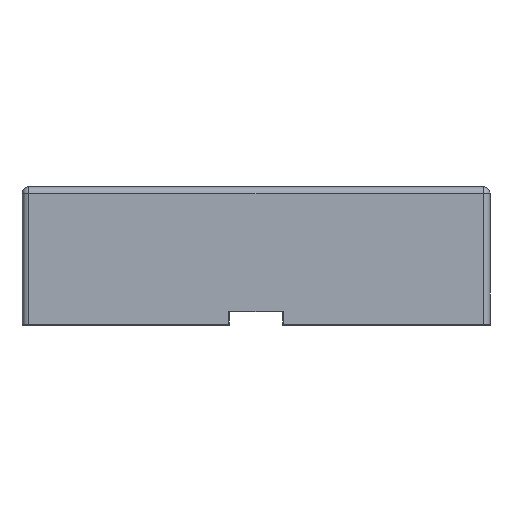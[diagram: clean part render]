
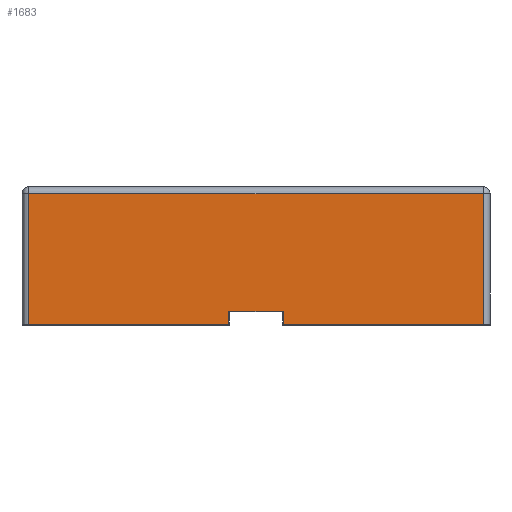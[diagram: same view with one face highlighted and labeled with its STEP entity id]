
A CAD part, front view. The second image highlights one B-rep face of the part: STEP entity #1683.
In plain terms, the highlighted planar face has unit normal (0, -1, 0).
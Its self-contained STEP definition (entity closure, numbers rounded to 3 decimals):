
#176=FACE_OUTER_BOUND('',#276,.T.);
#276=EDGE_LOOP('',(#1130,#1131,#1132,#1133,#1134,#1135,#1136,#1137));
#392=LINE('',#2543,#556);
#393=LINE('',#2545,#557);
#394=LINE('',#2547,#558);
#395=LINE('',#2549,#559);
#396=LINE('',#2551,#560);
#397=LINE('',#2553,#561);
#398=LINE('',#2555,#562);
#399=LINE('',#2556,#563);
#556=VECTOR('',#1997,9.73);
#557=VECTOR('',#1998,33.684);
#558=VECTOR('',#1999,9.73);
#559=VECTOR('',#2000,14.83);
#560=VECTOR('',#2001,1.);
#561=VECTOR('',#2002,4.024);
#562=VECTOR('',#2003,1.);
#563=VECTOR('',#2004,14.83);
#720=VERTEX_POINT('',#2541);
#721=VERTEX_POINT('',#2542);
#722=VERTEX_POINT('',#2544);
#723=VERTEX_POINT('',#2546);
#724=VERTEX_POINT('',#2548);
#725=VERTEX_POINT('',#2550);
#726=VERTEX_POINT('',#2552);
#727=VERTEX_POINT('',#2554);
#876=EDGE_CURVE('',#720,#721,#392,.T.);
#877=EDGE_CURVE('',#721,#722,#393,.T.);
#878=EDGE_CURVE('',#722,#723,#394,.T.);
#879=EDGE_CURVE('',#724,#723,#395,.T.);
#880=EDGE_CURVE('',#724,#725,#396,.T.);
#881=EDGE_CURVE('',#726,#725,#397,.T.);
#882=EDGE_CURVE('',#727,#726,#398,.T.);
#883=EDGE_CURVE('',#720,#727,#399,.T.);
#1130=ORIENTED_EDGE('',*,*,#876,.T.);
#1131=ORIENTED_EDGE('',*,*,#877,.T.);
#1132=ORIENTED_EDGE('',*,*,#878,.T.);
#1133=ORIENTED_EDGE('',*,*,#879,.F.);
#1134=ORIENTED_EDGE('',*,*,#880,.T.);
#1135=ORIENTED_EDGE('',*,*,#881,.F.);
#1136=ORIENTED_EDGE('',*,*,#882,.F.);
#1137=ORIENTED_EDGE('',*,*,#883,.F.);
#1638=PLANE('',#1803);
#1683=ADVANCED_FACE('',(#176),#1638,.F.);
#1803=AXIS2_PLACEMENT_3D('',#2540,#1995,#1996);
#1995=DIRECTION('center_axis',(0.,1.,0.));
#1996=DIRECTION('ref_axis',(-1.,0.,0.));
#1997=DIRECTION('',(0.,0.,1.));
#1998=DIRECTION('',(-1.,0.,0.));
#1999=DIRECTION('',(0.,0.,-1.));
#2000=DIRECTION('',(-1.,0.,0.));
#2001=DIRECTION('',(0.,0.,1.));
#2002=DIRECTION('',(-1.,0.,0.));
#2003=DIRECTION('',(0.,0.,1.));
#2004=DIRECTION('',(-1.,0.,0.));
#2540=CARTESIAN_POINT('Origin',(0.,0.,0.));
#2541=CARTESIAN_POINT('',(16.842,0.,-5.988));
#2542=CARTESIAN_POINT('',(16.842,0.,3.742));
#2543=CARTESIAN_POINT('',(16.842,0.,-5.988));
#2544=CARTESIAN_POINT('',(-16.842,0.,3.742));
#2545=CARTESIAN_POINT('',(16.842,0.,3.742));
#2546=CARTESIAN_POINT('',(-16.842,0.,-5.988));
#2547=CARTESIAN_POINT('',(-16.842,0.,3.742));
#2548=CARTESIAN_POINT('',(-2.012,0.,-5.988));
#2549=CARTESIAN_POINT('',(-2.012,0.,-5.988));
#2550=CARTESIAN_POINT('',(-2.012,0.,-4.988));
#2551=CARTESIAN_POINT('',(-2.012,0.,-5.988));
#2552=CARTESIAN_POINT('',(2.012,0.,-4.988));
#2553=CARTESIAN_POINT('',(2.012,0.,-4.988));
#2554=CARTESIAN_POINT('',(2.012,0.,-5.988));
#2555=CARTESIAN_POINT('',(2.012,0.,-5.988));
#2556=CARTESIAN_POINT('',(16.842,0.,-5.988));
